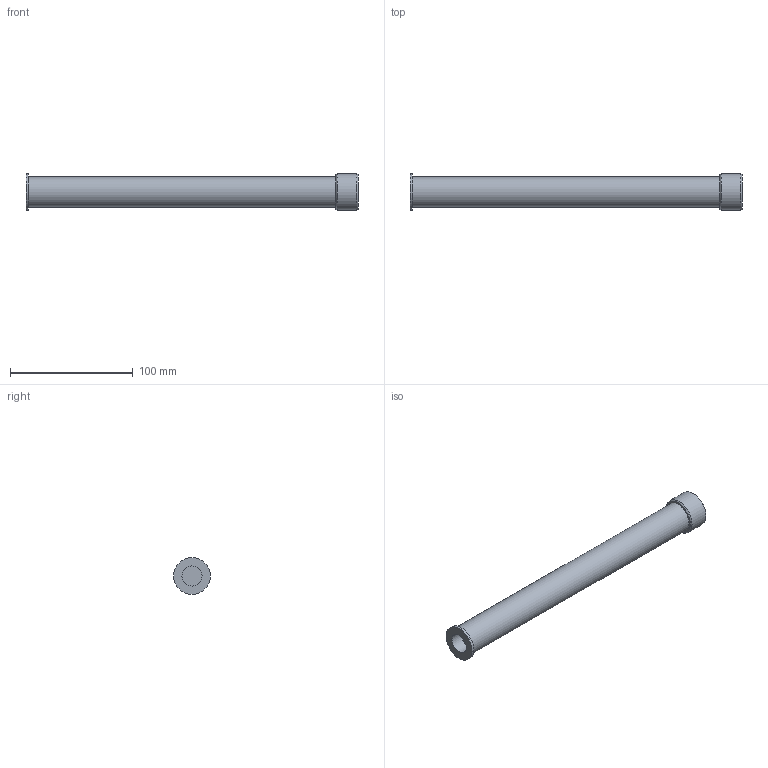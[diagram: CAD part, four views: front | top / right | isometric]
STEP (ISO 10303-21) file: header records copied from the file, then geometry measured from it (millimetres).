
FILE_DESCRIPTION( ( 'STEP AP203' ), '1' );
FILE_NAME( 'C:/Temp/Ganter_Step_05_03_2020/data/3_5/gn880_1/gn880_1_ans_abl/gn_880_1_a/Connector piece with drain hose GN 880.1-26-A-250-T.stp', '2020-03-12T13:42:28', ( 'License CC BY-ND 4.0' ), ( 'CADENAS' ), ' ', 'PARTsolutions', ' ' );
FILE_SCHEMA( ( 'CONFIG_CONTROL_DESIGN' ) );
Length unit declared in the file: millimetre
Products named in the file (5): Connector piece with drain hose GN 880.1-26-A-250-T; _Anschlussstueck mit Ablassschlauch GN 880.1-26-A-250-T_a; _Anschlussstueck mit Ablassschlauch GN 880.1-26-A-250-T_s; _Anschlussstueck mit Ablassschlauch GN 880.1-26-A-250-T_dk; _Anschlussstueck mit Ablassschlauch GN 880.1-26-A-250-T_dk2
Assembly tree (4 placements, depth 2):
  Connector piece with drain hose GN 880.1-26-A-250-T
    _Anschlussstueck mit Ablassschlauch GN 880.1-26-A-250-T_a
    _Anschlussstueck mit Ablassschlauch GN 880.1-26-A-250-T_s
    _Anschlussstueck mit Ablassschlauch GN 880.1-26-A-250-T_dk
    _Anschlussstueck mit Ablassschlauch GN 880.1-26-A-250-T_dk2
Bounding box: 270 x 30 x 30 mm (x, y, z)
Volume: 66030.5 mm3; surface area: 46839.3 mm2
Topology: 4 solids, 4 shells, 49 faces, 74 edges, 47 vertices
Faces by surface type: plane 22, cylinder 18, cone 6, torus 3
Full cylindrical faces by diameter (mm): 11.5 x1, 12.9 x1, 13 x3, 16.4 x1, 19 x7, 22 x1, 24.376 x1, 25 x1, 30 x2
Entity records: 1142 total; most frequent: DIRECTION 202, CARTESIAN_POINT 149, AXIS2_PLACEMENT_3D 101, EDGE_LOOP 94, ORIENTED_EDGE 94, FACE_OUTER_BOUND 70, ADVANCED_FACE 49, VERTEX_POINT 48
